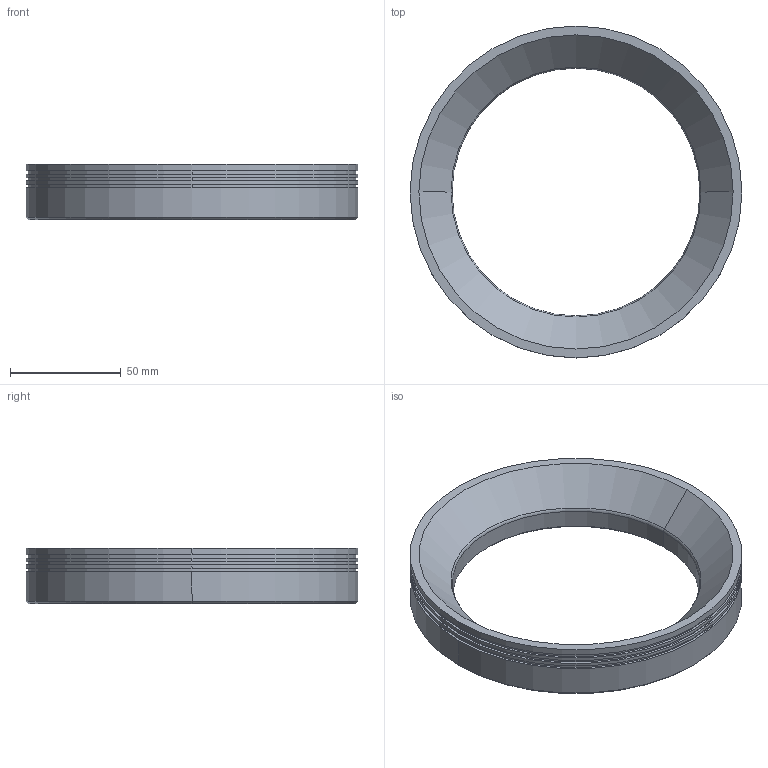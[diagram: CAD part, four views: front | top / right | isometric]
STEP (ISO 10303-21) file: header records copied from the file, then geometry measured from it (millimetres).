
FILE_DESCRIPTION((''),'2;1');
FILE_NAME('DRL7030','2020-03-28T',('ASUS'),(''),'PRO/ENGINEER BY PARAMETRIC TECHNOLOGY CORPORATION, 2008380','PRO/ENGINEER BY PARAMETRIC TECHNOLOGY CORPORATION, 2008380','');
FILE_SCHEMA(('CONFIG_CONTROL_DESIGN'));
Length unit declared in the file: millimetre
Products named in the file (1): DRL7030
Bounding box: 150 x 150 x 25 mm (x, y, z)
Volume: 149656.2 mm3; surface area: 36129.7 mm2
Topology: 1 solids, 5 shells, 68 faces, 152 edges, 92 vertices
Faces by surface type: cylinder 32, cone 22, plane 12, torus 2
Entity records: 1901 total; most frequent: DIRECTION 372, CARTESIAN_POINT 305, ORIENTED_EDGE 272, AXIS2_PLACEMENT_3D 159, EDGE_CURVE 144, VERTEX_POINT 92, CIRCLE 90, EDGE_LOOP 84
